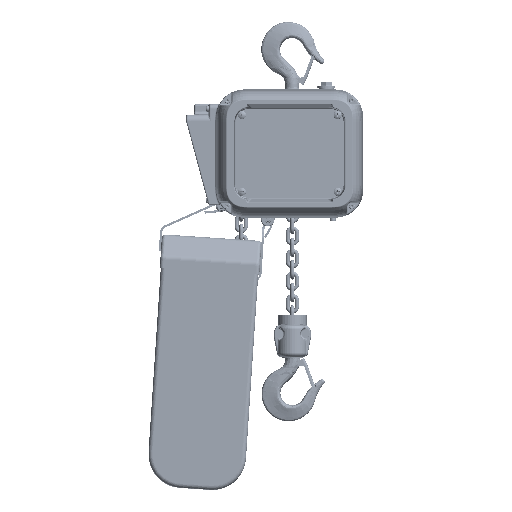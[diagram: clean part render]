
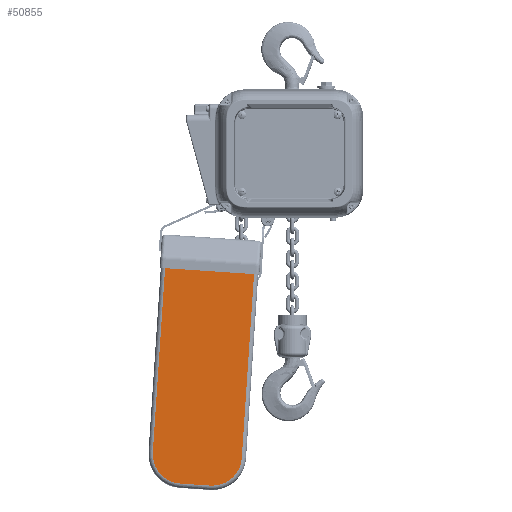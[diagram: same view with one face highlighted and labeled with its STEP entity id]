
A CAD part, top view. The second image highlights one B-rep face of the part: STEP entity #50855.
In plain terms, the highlighted planar face has unit normal (0, 0, 1) as drawn and (-1, 0, 0) by its records, which use the part's own axes.
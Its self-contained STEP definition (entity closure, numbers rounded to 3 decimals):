
#2502 = EDGE_CURVE ( 'NONE', #105023, #133487, #85477, .T. ) ;
#2583 = ORIENTED_EDGE ( 'NONE', *, *, #106665, .T. ) ;
#5059 = VERTEX_POINT ( 'NONE', #128471 ) ;
#7115 = VECTOR ( 'NONE', #63730, 1000. ) ;
#10726 = EDGE_CURVE ( 'NONE', #147955, #105023, #27384, .T. ) ;
#13088 = LINE ( 'NONE', #146461, #171303 ) ;
#13658 = VERTEX_POINT ( 'NONE', #56532 ) ;
#24850 = DIRECTION ( 'NONE',  ( 0., 0., -1. ) ) ;
#27384 = LINE ( 'NONE', #39771, #45277 ) ;
#27994 = CARTESIAN_POINT ( 'NONE',  ( 1.642, -273.85, -96.558 ) ) ;
#33237 = DIRECTION ( 'NONE',  ( 0., 0., -1. ) ) ;
#36015 = CARTESIAN_POINT ( 'NONE',  ( 1.642, -317.5, -51.524 ) ) ;
#39771 = CARTESIAN_POINT ( 'NONE',  ( 1.642, -317.5, -96.558 ) ) ;
#45277 = VECTOR ( 'NONE', #68030, 1000. ) ;
#50855 = ADVANCED_FACE ( 'NONE', ( #76749 ), #157128, .F. ) ;
#50974 = EDGE_CURVE ( 'NONE', #133487, #86930, #13088, .T. ) ;
#55827 = DIRECTION ( 'NONE',  ( 0., 0., -1. ) ) ;
#56532 = CARTESIAN_POINT ( 'NONE',  ( 1.642, 12.7, -140.208 ) ) ;
#56701 = CARTESIAN_POINT ( 'NONE',  ( 1.642, -273.85, -51.524 ) ) ;
#58485 = CARTESIAN_POINT ( 'NONE',  ( 1.642, 12.7, -7.874 ) ) ;
#63730 = DIRECTION ( 'NONE',  ( 0., -1., 0. ) ) ;
#68030 = DIRECTION ( 'NONE',  ( 0., 0., 1. ) ) ;
#69760 = AXIS2_PLACEMENT_3D ( 'NONE', #114808, #115679, #128924 ) ;
#73448 = ORIENTED_EDGE ( 'NONE', *, *, #10726, .T. ) ;
#74245 = EDGE_LOOP ( 'NONE', ( #2583, #125361, #102916, #73448, #96333, #151702 ) ) ;
#76749 = FACE_OUTER_BOUND ( 'NONE', #74245, .T. ) ;
#80465 = LINE ( 'NONE', #134343, #7115 ) ;
#80505 = LINE ( 'NONE', #103540, #132056 ) ;
#81897 = DIRECTION ( 'NONE',  ( -1., 0., 0. ) ) ;
#85477 = CIRCLE ( 'NONE', #105096, 43.65 ) ;
#86930 = VERTEX_POINT ( 'NONE', #58485 ) ;
#89227 = AXIS2_PLACEMENT_3D ( 'NONE', #27994, #81897, #33237 ) ;
#94962 = CARTESIAN_POINT ( 'NONE',  ( 1.642, -317.5, -96.558 ) ) ;
#96333 = ORIENTED_EDGE ( 'NONE', *, *, #2502, .T. ) ;
#97298 = DIRECTION ( 'NONE',  ( -1., 0., 0. ) ) ;
#102916 = ORIENTED_EDGE ( 'NONE', *, *, #144720, .T. ) ;
#103540 = CARTESIAN_POINT ( 'NONE',  ( 1.642, 12.7, -1.524 ) ) ;
#105023 = VERTEX_POINT ( 'NONE', #36015 ) ;
#105096 = AXIS2_PLACEMENT_3D ( 'NONE', #56701, #97298, #55827 ) ;
#106665 = EDGE_CURVE ( 'NONE', #86930, #13658, #80505, .T. ) ;
#113672 = EDGE_CURVE ( 'NONE', #13658, #5059, #80465, .T. ) ;
#114617 = CIRCLE ( 'NONE', #89227, 43.65 ) ;
#114808 = CARTESIAN_POINT ( 'NONE',  ( 1.642, -273.85, -96.558 ) ) ;
#115679 = DIRECTION ( 'NONE',  ( 1., 0., 0. ) ) ;
#125361 = ORIENTED_EDGE ( 'NONE', *, *, #113672, .T. ) ;
#128471 = CARTESIAN_POINT ( 'NONE',  ( 1.642, -273.85, -140.208 ) ) ;
#128924 = DIRECTION ( 'NONE',  ( 0., 0., -1. ) ) ;
#131527 = DIRECTION ( 'NONE',  ( 0., 1., 0. ) ) ;
#132056 = VECTOR ( 'NONE', #24850, 1000. ) ;
#133487 = VERTEX_POINT ( 'NONE', #157914 ) ;
#134343 = CARTESIAN_POINT ( 'NONE',  ( 1.642, -273.85, -140.208 ) ) ;
#144720 = EDGE_CURVE ( 'NONE', #5059, #147955, #114617, .T. ) ;
#146461 = CARTESIAN_POINT ( 'NONE',  ( 1.642, -273.85, -7.874 ) ) ;
#147955 = VERTEX_POINT ( 'NONE', #94962 ) ;
#151702 = ORIENTED_EDGE ( 'NONE', *, *, #50974, .T. ) ;
#157128 = PLANE ( 'NONE',  #69760 ) ;
#157914 = CARTESIAN_POINT ( 'NONE',  ( 1.642, -273.85, -7.874 ) ) ;
#171303 = VECTOR ( 'NONE', #131527, 1000. ) ;
